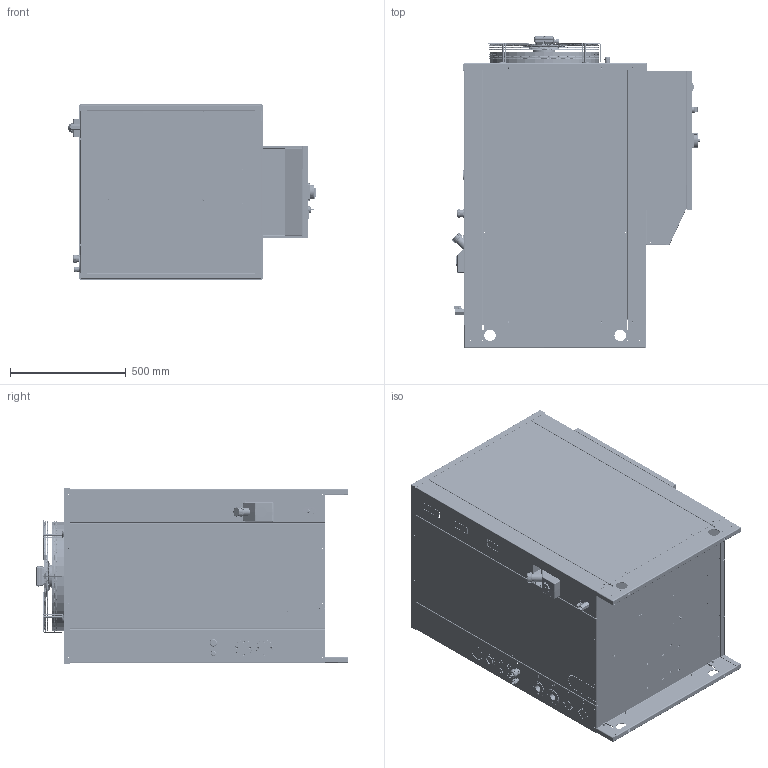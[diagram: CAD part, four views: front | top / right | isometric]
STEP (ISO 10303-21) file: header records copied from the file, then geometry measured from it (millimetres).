
FILE_DESCRIPTION (( 'STEP AP214' ), '1' );
FILE_NAME ('50-2D-00008 + UL-CSA.STEP', '2018-12-12T10:40:43', ( 'Utente' ), ( 'Microsoft' ), 'SwSTEP 2.0', 'SolidWorks 2013', '' );
FILE_SCHEMA (( 'AUTOMOTIVE_DESIGN' ));
Length unit declared in the file: millimetre
Products named in the file (78): VR-2D-00012_000; QE 400x600x200; VR-2D-00001_002B; 450-Z; VR-2D-00011_000; VR-2D-00034_001; VR-2D-00001_002A; MA-N1-00001_MANOMETRO ACQUA 40mm 0-12 BAR; 450-Z-C-0_ASM; VA-A5-00001; CR-2D-00002_001; 350-450-031; VR-2D-00003_001; TAPPO 1P  FEM ; Tappo quadro elettrico; 450-012-C; Rivelox M5 Reduced Head Hexagonal Shank.; IN-VI-00001; CR-2D-00009_001; SELETTORE_NERO; 450-SHAFT; SE-RP-00044_CORPO; pg-21 nelco_Cable-Gland-1.209.2100.15-Nelco; 450-021-C-Z_ASM; VE-W3-00002_000; CR-2D-00010_001; 6D-400-S-012_2_AF0; M3X12; RIVELOX M5; pg-21 nelco_part2_Nut-PA-Grey-33-33-31-Nelco; PRT0002_11_AF0; 50-2D-00008 + UL-CSA; CXZ-M16_ASM_ASM; 6D-400-S-018-2_22_AF0; CXZ-M16_ASM_1_ASM; VR-3D-00021_000; pg-21 nelco_part1_Socket-1.209.2100.15-Nelco; 450-021-011_AF0; 6D-400-S-040-4_1; VR-2D-00006_001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
Assembly tree (162 placements, depth 5):
  50-2D-00008 + UL-CSA
    VR-2D-00003_001
      VR-2D-00003_001
      Rivelox M5 Reduced Head Hexagonal Shank.  x24
    VR-2D-00011_000
      VR-2D-00011_000
      Rivelox M5 Reduced Head Hexagonal Shank.  x8
    VR-2D-00012_000
      VR-2D-00012_000
      Rivelox M5 Reduced Head Hexagonal Shank.  x8
    VR-2D-00008_001
      VR-2D-00008_001
      Rivelox M5 Reduced Head Hexagonal Shank.  x2
    VR-2D-00005_001
      VR-2D-00005_001
      Rivelox M5 Reduced Head Hexagonal Shank.  x2
    VR-2D-00006_001
      VR-2D-00006_001
      Rivelox M5 Reduced Head Hexagonal Shank._  x2
    VR-3D-00021_000
    CR-2D-00010_001
      CR-2D-00010_001
      RIVELOX M5  x6
    CR-2D-00009_001
      CR-2D-00009_001
      RIVELOX M5  x6
    CR-2D-00002_001
      CR-2D-00002_001
      RIVELOX M5  x6
    VR-2D-00001_002
      VR-2D-00001_002A
      VR-2D-00001_002B
    VR-2D-00014_000
      VR-2D-00014_000
      Rivelox M5 Reduced Head Hexagonal Shank.  x5
    VR-2D-00013_001
      VR-2D-00013_001
      Rivelox M5 Reduced Head Hexagonal Shank.  x5
    PG 13.5_Cable-Gland-1.209.1300.14-Nelco  x2
      PG 13.5_2_Nut-PA-Grey-24-24-27-Nelco
      PG 13.5_1_Socket-1.209.1300.14-Nelco
    ST-AT-00020_003  x2
    VE-W3-00002_000
      450-Z-C-0_ASM
        450-021-C-Z_ASM
          450-021-011_AF0
          6D-400-S-018-2_22_AF0
          PRT0002_11_AF0
          6D-400-S-012_2_AF0
        450-SHAFT
        450-012-C
        350-450-031
      450-Z  x5
      WZ450-GA-2
      M6X16-FL  x4
      JUNCTION-BOX-7_ASM
        8UF-CAPACITOR-1
        8UFCAPACITOR
        LINKER
        WATERPROOF-1
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Bounding box: 1070.87 x 1349.06 x 756.5 mm (x, y, z)
Volume: 15058609 mm3; surface area: 16875157.8 mm2
Topology: 183 solids, 184 shells, 15361 faces, 39322 edges, 24367 vertices
Faces by surface type: plane 7199, bspline 3594, cylinder 3386, cone 976, torus 165, sphere 41
Entity records: 572492 total; most frequent: CARTESIAN_POINT 273009, ORIENTED_EDGE 67010, DIRECTION 50193, EDGE_CURVE 33505, VERTEX_POINT 20955, VECTOR 17113, LINE 17113, AXIS2_PLACEMENT_3D 16540
